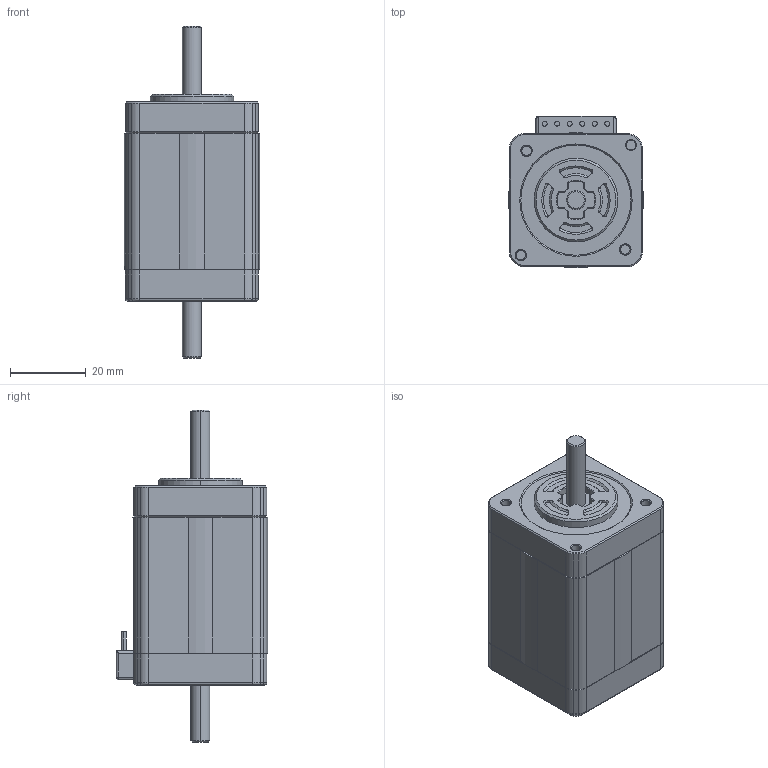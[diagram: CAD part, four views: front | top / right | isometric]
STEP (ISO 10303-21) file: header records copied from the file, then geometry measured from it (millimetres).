
FILE_DESCRIPTION (( 'STEP AP203' ), '1' );
FILE_NAME ('SH3552-12U10.STEP', '2012-07-18T07:03:19', ( 'sanyodenki-admin' ), ( '' ), 'SwSTEP 2.0', 'SolidWorks 2011', '' );
FILE_SCHEMA (( 'CONFIG_CONTROL_DESIGN' ));
Length unit declared in the file: millimetre
Products named in the file (1): SH3552-12U10
Bounding box: 35.57 x 39.97 x 87.4 mm (x, y, z)
Volume: 65362.3 mm3; surface area: 10934.6 mm2
Topology: 1 solids, 1 shells, 370 faces, 884 edges, 537 vertices
Faces by surface type: plane 121, cone 104, cylinder 97, bspline 34, torus 12, sphere 2
Entity records: 11489 total; most frequent: CARTESIAN_POINT 3092, ORIENTED_EDGE 1760, DIRECTION 1724, EDGE_CURVE 880, AXIS2_PLACEMENT_3D 681, VERTEX_POINT 537, EDGE_LOOP 395, ADVANCED_FACE 370
